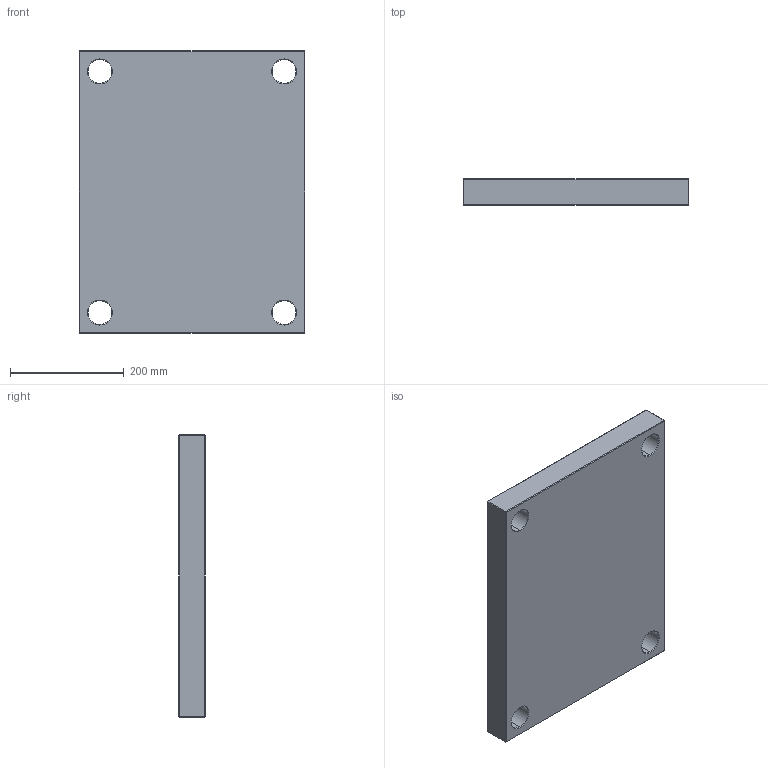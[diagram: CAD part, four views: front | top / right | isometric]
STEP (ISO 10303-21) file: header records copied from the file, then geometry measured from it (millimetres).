
FILE_DESCRIPTION (( 'STEP AP214' ), '1' );
FILE_NAME ('PC-396x496x46.STEP', '2020-04-21T17:22:06', ( 'August' ), ( '' ), 'SwSTEP 2.0', 'SolidWorks 2018', '' );
FILE_SCHEMA (( 'AUTOMOTIVE_DESIGN' ));
Length unit declared in the file: millimetre
Products named in the file (1): PC-396x496x46
Bounding box: 396 x 46 x 496 mm (x, y, z)
Volume: 8746871.5 mm3; surface area: 490626.7 mm2
Topology: 1 solids, 1 shells, 82 faces, 168 edges, 96 vertices
Faces by surface type: plane 34, cone 24, cylinder 24
Entity records: 2170 total; most frequent: DIRECTION 406, CARTESIAN_POINT 347, ORIENTED_EDGE 336, EDGE_CURVE 168, AXIS2_PLACEMENT_3D 155, EDGE_LOOP 98, VERTEX_POINT 96, VECTOR 96
